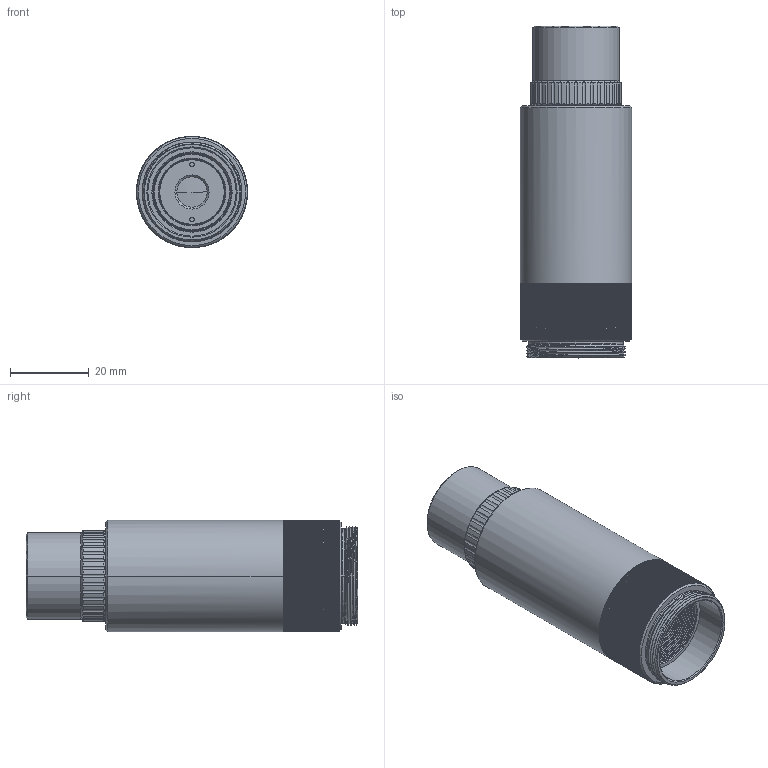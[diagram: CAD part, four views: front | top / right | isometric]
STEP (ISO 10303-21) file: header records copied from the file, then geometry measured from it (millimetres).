
FILE_DESCRIPTION((''),'2;1');
FILE_NAME('TMN_1-5_35','2019-02-12T',('kevin.wileman'),(''),'CREO PARAMETRIC BY PTC INC, 2015480','CREO PARAMETRIC BY PTC INC, 2015480','');
FILE_SCHEMA(('AUTOMOTIVE_DESIGN { 1 0 10303 214 1 1 1 1 }'));
Products named in the file (1): TMN_1-5_35
Bounding box: 28.3 x 84.5 x 28.3 mm (x, y, z)
Volume: 25931.2 mm3; surface area: 19572.3 mm2
Topology: 1 solids, 1 shells, 1900 faces, 5529 edges, 3647 vertices
Faces by surface type: plane 1344, cylinder 364, bspline 132, cone 50, torus 6, sphere 4
Entity records: 142719 total; most frequent: CARTESIAN_POINT 94674, ORIENTED_EDGE 11050, DIRECTION 8164, EDGE_CURVE 5525, VERTEX_POINT 3647, VECTOR 2828, LINE 2828, AXIS2_PLACEMENT_3D 2668
